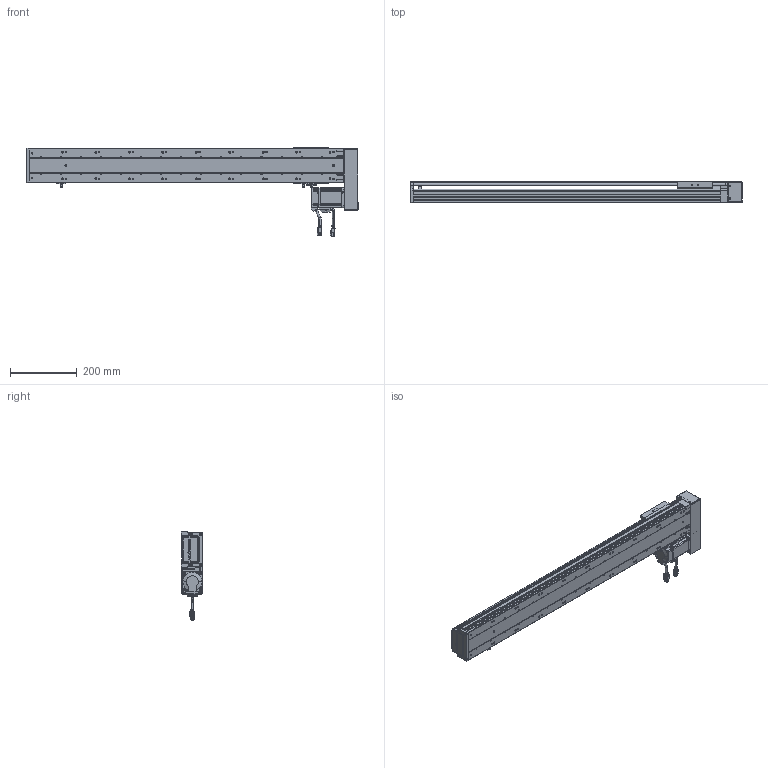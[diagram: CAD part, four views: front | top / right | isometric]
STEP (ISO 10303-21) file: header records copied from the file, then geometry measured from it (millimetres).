
FILE_DESCRIPTION (( 'STEP AP203' ), '1' );
FILE_NAME ('RY100S-L1620-300-RK(15双轨).SLDASM_750.step', '2021-02-20T08:48:29', ( '盈信电脑' ), ( '东莞市道滘镇水果街19号' ), 'SwSTEP 2.0', 'SolidWorks 2012', '' );
FILE_SCHEMA (( 'CONFIG_CONTROL_DESIGN' ));
Length unit declared in the file: millimetre
Products named in the file (25): RY100S铝滑块（15双轨单滑块）底组装导轨; RY100S-L1620-300-RK(15邧寢).SLDASM_750; 蚾饜极1^RY100S-L1620-300-RK(15邧寢); 侂狟200W萇儂; 3M30喘15遵; 7; 4; 3; 6; 5; 1; 2; 肮祭湍3M遵15笚酗282; RY100S左右折电机罩（15双轨）; RY80肮祭湍覃踡啣; RY100S转折电机安装板（15双轨）; RY80肮祭湍芢雄輸; RY100S转折电机端支撑座(15双轨); RY100俋离覜茼え; 滅袉蝶18-24; RY100綴裔啣; 滅袉蝶18-10; RY100S-300-LK转折型材上盖(15双轨)_750; RY100S-350-LK型材底座(低组15双轨)_750; 覜茼ん672
Assembly tree (27 placements, depth 4):
  RY100S-L1620-300-RK(15邧寢).SLDASM_750
    RY100S-350-LK型材底座(低组15双轨)_750
    RY100S-300-LK转折型材上盖(15双轨)_750
    覜茼ん672  x3
    滅袉蝶18-10
    RY100俋离覜茼え
    RY100S转折电机端支撑座(15双轨)
    滅袉蝶18-24
    RY100綴裔啣
    蚾饜极1^RY100S-L1620-300-RK(15邧寢)
      RY80肮祭湍覃踡啣
      RY80肮祭湍芢雄輸  x2
      RY100S左右折电机罩（15双轨）
      RY100S转折电机安装板（15双轨）
      肮祭湍3M遵15笚酗282
      侂狟200W萇儂
        1
        2
        3
        4
        5
        6
        7
      3M30喘15遵
    RY100S铝滑块（15双轨单滑块）底组装导轨
Bounding box: 992.5 x 65 x 263.3 mm (x, y, z)
Volume: 2331499.4 mm3; surface area: 919448 mm2
Topology: 25 solids, 25 shells, 3312 faces, 8937 edges, 5764 vertices
Faces by surface type: plane 1728, cylinder 1301, cone 169, bspline 114
Entity records: 108102 total; most frequent: CARTESIAN_POINT 27085, ORIENTED_EDGE 16578, DIRECTION 16004, EDGE_CURVE 8289, AXIS2_PLACEMENT_3D 5479, VERTEX_POINT 5400, VECTOR 5046, LINE 5046
